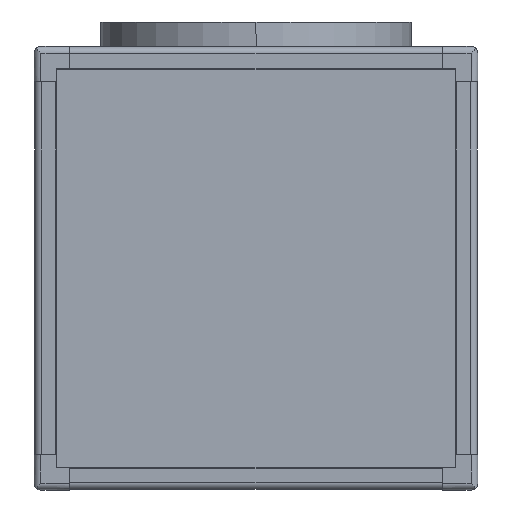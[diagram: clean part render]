
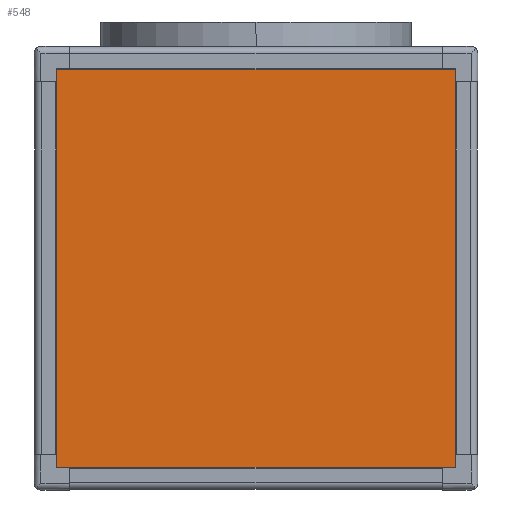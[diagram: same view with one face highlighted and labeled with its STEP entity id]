
A CAD part, front view. The second image highlights one B-rep face of the part: STEP entity #548.
In plain terms, the highlighted planar face has unit normal (0, -1, 0).
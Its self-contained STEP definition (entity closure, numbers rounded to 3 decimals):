
#548=ADVANCED_FACE('',(#1490),#1491,.T.);
#1490=FACE_OUTER_BOUND('',#3085,.T.);
#1491=PLANE('',#3086);
#3085=EDGE_LOOP('',(#5557,#5558,#5559,#5560));
#3086=AXIS2_PLACEMENT_3D('',#5561,#5562,#5563);
#5557=ORIENTED_EDGE('',*,*,#11542,.T.);
#5558=ORIENTED_EDGE('',*,*,#11535,.T.);
#5559=ORIENTED_EDGE('',*,*,#11527,.T.);
#5560=ORIENTED_EDGE('',*,*,#11519,.T.);
#5561=CARTESIAN_POINT('',(0.,-396.0,0.));
#5562=DIRECTION('',(0.,-1.0,0.));
#5563=DIRECTION('',(-1.0,0.,0.0));
#11519=EDGE_CURVE('',#15456,#15461,#15463,.T.);
#11527=EDGE_CURVE('',#15473,#15456,#15477,.T.);
#11535=EDGE_CURVE('',#15487,#15473,#15491,.T.);
#11542=EDGE_CURVE('',#15461,#15487,#15502,.T.);
#15456=VERTEX_POINT('',#23830);
#15461=VERTEX_POINT('',#23837);
#15463=LINE('',#23840,#23841);
#15473=VERTEX_POINT('',#23855);
#15477=LINE('',#23861,#23862);
#15487=VERTEX_POINT('',#23876);
#15491=LINE('',#23882,#23883);
#15502=LINE('',#23899,#23900);
#23830=CARTESIAN_POINT('',(359.0,-396.0,359.0));
#23837=CARTESIAN_POINT('',(-359.0,-396.0,359.0));
#23840=CARTESIAN_POINT('',(0.,-396.0,359.0));
#23841=VECTOR('',#30702,1.0);
#23855=CARTESIAN_POINT('',(359.0,-396.0,-359.0));
#23861=CARTESIAN_POINT('',(359.0,-396.0,0.));
#23862=VECTOR('',#30709,1.0);
#23876=CARTESIAN_POINT('',(-359.0,-396.0,-359.0));
#23882=CARTESIAN_POINT('',(0.,-396.0,-359.0));
#23883=VECTOR('',#30716,1.0);
#23899=CARTESIAN_POINT('',(-359.0,-396.0,0.));
#23900=VECTOR('',#30722,1.0);
#30702=DIRECTION('',(-1.0,0.,0.0));
#30709=DIRECTION('',(0.,0.,1.0));
#30716=DIRECTION('',(1.0,0.,0.0));
#30722=DIRECTION('',(0.,0.,-1.0));
